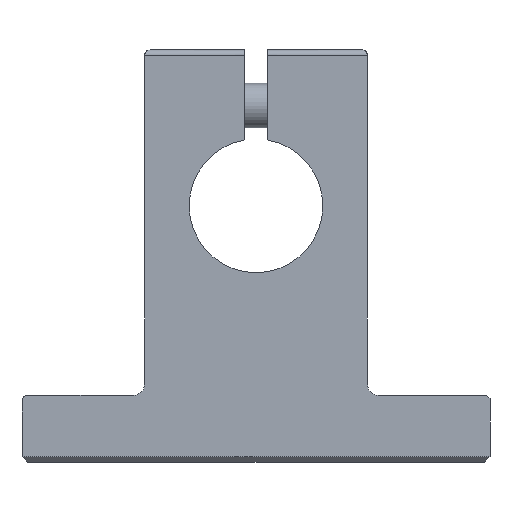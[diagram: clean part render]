
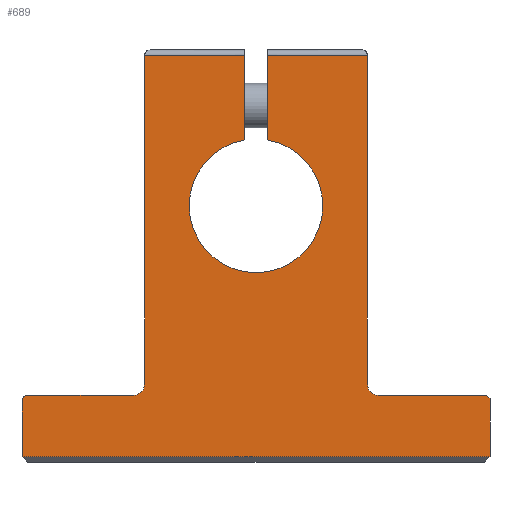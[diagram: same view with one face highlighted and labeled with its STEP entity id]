
A CAD part, left-side view. The second image highlights one B-rep face of the part: STEP entity #689.
In plain terms, the highlighted planar face has unit normal (-1, 0, 0).
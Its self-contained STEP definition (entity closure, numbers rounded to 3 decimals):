
#441=CARTESIAN_POINT('',(0.0,1.,13.5));
#442=VERTEX_POINT('',#441);
#460=CARTESIAN_POINT('',(0.0,10.0,13.5));
#461=VERTEX_POINT('',#460);
#469=CARTESIAN_POINT('',(0.0,10.0,13.5));
#470=DIRECTION('',(0.0,-1.0,0.0));
#471=VECTOR('',#470,9.);
#472=LINE('',#469,#471);
#473=EDGE_CURVE('',#461,#442,#472,.T.);
#559=CARTESIAN_POINT('',(0.0,0.,-6.02));
#560=DIRECTION('',(1.0,0.0,0.0));
#561=DIRECTION('',(0.0,0.0,-1.0));
#562=AXIS2_PLACEMENT_3D('',#559,#560,#561);
#563=PLANE('',#562);
#564=ORIENTED_EDGE('',*,*,#473,.F.);
#565=CARTESIAN_POINT('',(0.0,10.0,-16.));
#566=VERTEX_POINT('',#565);
#567=CARTESIAN_POINT('',(0.0,10.0,-16.));
#568=DIRECTION('',(0.0,0.0,1.0));
#569=VECTOR('',#568,29.5);
#570=LINE('',#567,#569);
#571=EDGE_CURVE('',#566,#461,#570,.T.);
#572=ORIENTED_EDGE('',*,*,#571,.F.);
#573=CARTESIAN_POINT('',(0.0,11.0,-17.));
#574=VERTEX_POINT('',#573);
#575=CARTESIAN_POINT('',(0.0,11.0,-16.));
#576=DIRECTION('',(-1.,0.0,0.0));
#577=DIRECTION('',(0.0,-0.707,-0.707));
#578=AXIS2_PLACEMENT_3D('',#575,#576,#577);
#579=CIRCLE('',#578,1.);
#580=EDGE_CURVE('',#574,#566,#579,.T.);
#581=ORIENTED_EDGE('',*,*,#580,.F.);
#582=CARTESIAN_POINT('',(0.0,20.5,-17.));
#583=VERTEX_POINT('',#582);
#584=CARTESIAN_POINT('',(0.0,20.5,-17.));
#585=DIRECTION('',(0.0,-1.0,0.0));
#586=VECTOR('',#585,9.5);
#587=LINE('',#584,#586);
#588=EDGE_CURVE('',#583,#574,#587,.T.);
#589=ORIENTED_EDGE('',*,*,#588,.F.);
#590=CARTESIAN_POINT('',(0.0,21.,-17.5));
#591=VERTEX_POINT('',#590);
#592=CARTESIAN_POINT('',(0.0,20.5,-17.5));
#593=DIRECTION('',(1.0,0.0,0.0));
#594=DIRECTION('',(0.0,0.707,0.707));
#595=AXIS2_PLACEMENT_3D('',#592,#593,#594);
#596=CIRCLE('',#595,0.5);
#597=EDGE_CURVE('',#591,#583,#596,.T.);
#598=ORIENTED_EDGE('',*,*,#597,.F.);
#599=CARTESIAN_POINT('',(0.0,21.,-22.5));
#600=VERTEX_POINT('',#599);
#601=CARTESIAN_POINT('',(0.0,21.,-22.5));
#602=DIRECTION('',(0.0,0.0,1.0));
#603=VECTOR('',#602,5.0);
#604=LINE('',#601,#603);
#605=EDGE_CURVE('',#600,#591,#604,.T.);
#606=ORIENTED_EDGE('',*,*,#605,.F.);
#607=CARTESIAN_POINT('',(0.0,-21.,-22.5));
#608=VERTEX_POINT('',#607);
#609=CARTESIAN_POINT('',(0.0,-21.,-22.5));
#610=DIRECTION('',(0.0,1.0,0.0));
#611=VECTOR('',#610,42.);
#612=LINE('',#609,#611);
#613=EDGE_CURVE('',#608,#600,#612,.T.);
#614=ORIENTED_EDGE('',*,*,#613,.F.);
#615=CARTESIAN_POINT('',(0.0,-21.,-17.3));
#616=VERTEX_POINT('',#615);
#617=CARTESIAN_POINT('',(0.0,-21.,-17.3));
#618=DIRECTION('',(0.0,0.0,-1.0));
#619=VECTOR('',#618,5.2);
#620=LINE('',#617,#619);
#621=EDGE_CURVE('',#616,#608,#620,.T.);
#622=ORIENTED_EDGE('',*,*,#621,.F.);
#623=CARTESIAN_POINT('',(0.0,-20.7,-17.));
#624=VERTEX_POINT('',#623);
#625=CARTESIAN_POINT('',(0.0,-20.7,-17.));
#626=DIRECTION('',(0.0,-0.707,-0.707));
#627=VECTOR('',#626,0.424);
#628=LINE('',#625,#627);
#629=EDGE_CURVE('',#624,#616,#628,.T.);
#630=ORIENTED_EDGE('',*,*,#629,.F.);
#631=CARTESIAN_POINT('',(0.0,-11.0,-17.));
#632=VERTEX_POINT('',#631);
#633=CARTESIAN_POINT('',(0.0,-11.0,-17.));
#634=DIRECTION('',(0.0,-1.0,0.0));
#635=VECTOR('',#634,9.7);
#636=LINE('',#633,#635);
#637=EDGE_CURVE('',#632,#624,#636,.T.);
#638=ORIENTED_EDGE('',*,*,#637,.F.);
#639=CARTESIAN_POINT('',(0.0,-10.0,-16.));
#640=VERTEX_POINT('',#639);
#641=CARTESIAN_POINT('',(0.0,-11.0,-16.));
#642=DIRECTION('',(-1.,0.0,0.0));
#643=DIRECTION('',(0.0,0.707,-0.707));
#644=AXIS2_PLACEMENT_3D('',#641,#642,#643);
#645=CIRCLE('',#644,1.);
#646=EDGE_CURVE('',#640,#632,#645,.T.);
#647=ORIENTED_EDGE('',*,*,#646,.F.);
#648=CARTESIAN_POINT('',(0.0,-10.0,13.5));
#649=VERTEX_POINT('',#648);
#650=CARTESIAN_POINT('',(0.0,-10.0,13.5));
#651=DIRECTION('',(0.0,0.0,-1.0));
#652=VECTOR('',#651,29.5);
#653=LINE('',#650,#652);
#654=EDGE_CURVE('',#649,#640,#653,.T.);
#655=ORIENTED_EDGE('',*,*,#654,.F.);
#656=CARTESIAN_POINT('',(0.0,-1.,13.5));
#657=VERTEX_POINT('',#656);
#658=CARTESIAN_POINT('',(0.0,-1.,13.5));
#659=DIRECTION('',(0.0,-1.0,0.0));
#660=VECTOR('',#659,9.);
#661=LINE('',#658,#660);
#662=EDGE_CURVE('',#657,#649,#661,.T.);
#663=ORIENTED_EDGE('',*,*,#662,.F.);
#664=CARTESIAN_POINT('',(0.0,-1.0,5.916));
#665=VERTEX_POINT('',#664);
#666=CARTESIAN_POINT('',(0.0,-1.0,5.916));
#667=DIRECTION('',(0.0,0.0,1.0));
#668=VECTOR('',#667,7.584);
#669=LINE('',#666,#668);
#670=EDGE_CURVE('',#665,#657,#669,.T.);
#671=ORIENTED_EDGE('',*,*,#670,.F.);
#672=CARTESIAN_POINT('',(0.0,1.0,5.916));
#673=VERTEX_POINT('',#672);
#674=CARTESIAN_POINT('',(0.0,0.0,0.0));
#675=DIRECTION('',(-1.0,0.0,0.0));
#676=DIRECTION('',(0.0,-1.0,0.0));
#677=AXIS2_PLACEMENT_3D('',#674,#675,#676);
#678=CIRCLE('',#677,6.);
#679=EDGE_CURVE('',#673,#665,#678,.T.);
#680=ORIENTED_EDGE('',*,*,#679,.F.);
#681=CARTESIAN_POINT('',(0.0,1.,13.5));
#682=DIRECTION('',(0.0,0.0,-1.0));
#683=VECTOR('',#682,7.584);
#684=LINE('',#681,#683);
#685=EDGE_CURVE('',#442,#673,#684,.T.);
#686=ORIENTED_EDGE('',*,*,#685,.F.);
#687=EDGE_LOOP('',(#564,#572,#581,#589,#598,#606,#614,#622,#630,#638,#647,#655,#663,#671,#680,#686));
#688=FACE_OUTER_BOUND('',#687,.T.);
#689=ADVANCED_FACE('',(#688),#563,.F.);
